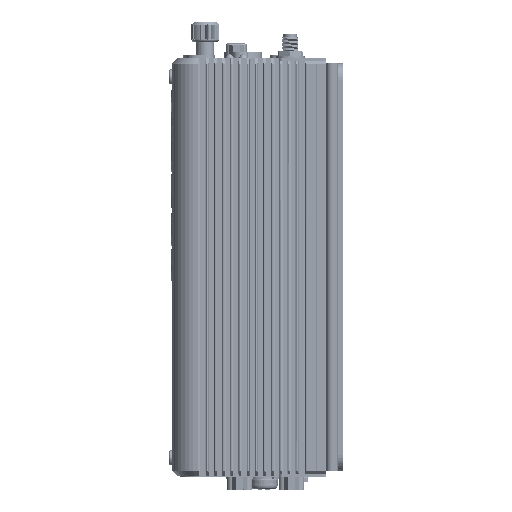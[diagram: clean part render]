
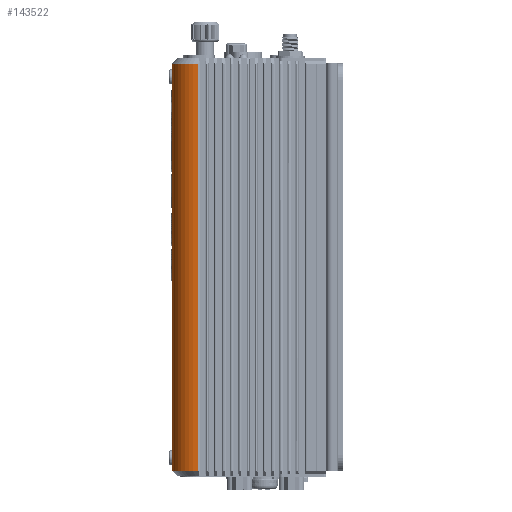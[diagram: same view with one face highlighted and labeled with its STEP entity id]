
A CAD part, left-side view. The second image highlights one B-rep face of the part: STEP entity #143522.
In plain terms, the highlighted cylindrical face has radius 10 mm (diameter 20 mm), a partial arc.
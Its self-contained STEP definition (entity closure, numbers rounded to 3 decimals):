
#24639=CARTESIAN_POINT('',(-124.986,7.526,
74.8));
#24647=CARTESIAN_POINT('',(-115.,7.,74.8));
#24648=DIRECTION('',(0.,0.,1.));
#24649=DIRECTION('',(0.,1.,0.));
#24650=AXIS2_PLACEMENT_3D('',#24647,#24648,#24649);
#24668=DIRECTION('',(0.,0.,-1.));
#24669=VECTOR('',#24668,149.6);
#24670=CARTESIAN_POINT('',(-124.986,7.526,
74.8));
#24671=LINE('',#24670,#24669);
#24672=CARTESIAN_POINT('',(-115.,7.,-74.8));
#24673=DIRECTION('',(0.,0.,-1.));
#24674=DIRECTION('',(-0.999,0.053,0.));
#24675=AXIS2_PLACEMENT_3D('',#24672,#24673,#24674);
#24681=DIRECTION('',(0.,0.,
-1.));
#24682=VECTOR('',#24681,149.6);
#24683=CARTESIAN_POINT('',(-115.,17.,
74.8));
#24684=LINE('',#24683,#24682);
#86335=CARTESIAN_POINT('',(-115.,17.,
74.8));
#86336=VERTEX_POINT('',#86335);
#86343=CARTESIAN_POINT('',(-115.,17.,
-74.8));
#86344=VERTEX_POINT('',#86343);
#86401=VERTEX_POINT('',#24639);
#86408=CARTESIAN_POINT('',(-124.986,7.526,
-74.8));
#86409=VERTEX_POINT('',#86408);
#143510=CARTESIAN_POINT('',(-115.,7.,-76.8));
#143511=DIRECTION('',(0.,0.,1.));
#143512=DIRECTION('',(1.,0.,0.));
#143513=AXIS2_PLACEMENT_3D('',#143510,#143511,#143512);
#143514=CYLINDRICAL_SURFACE('',#143513,10.);
#143515=ORIENTED_EDGE('',*,*,#143472,.T.);
#143516=ORIENTED_EDGE('',*,*,#143488,.T.);
#143517=ORIENTED_EDGE('',*,*,#143499,.T.);
#143519=ORIENTED_EDGE('',*,*,#143518,.F.);
#143520=EDGE_LOOP('',(#143515,#143516,#143517,#143519));
#143521=FACE_OUTER_BOUND('',#143520,.F.);
#143522=ADVANCED_FACE('',(#143521),#143514,.T.);
#24651=CIRCLE('',#24650,10.);
#24676=CIRCLE('',#24675,10.);
#143472=EDGE_CURVE('',#86336,#86401,#24651,.T.);
#143488=EDGE_CURVE('',#86401,#86409,#24671,.T.);
#143499=EDGE_CURVE('',#86409,#86344,#24676,.T.);
#143518=EDGE_CURVE('',#86336,#86344,#24684,.T.);
